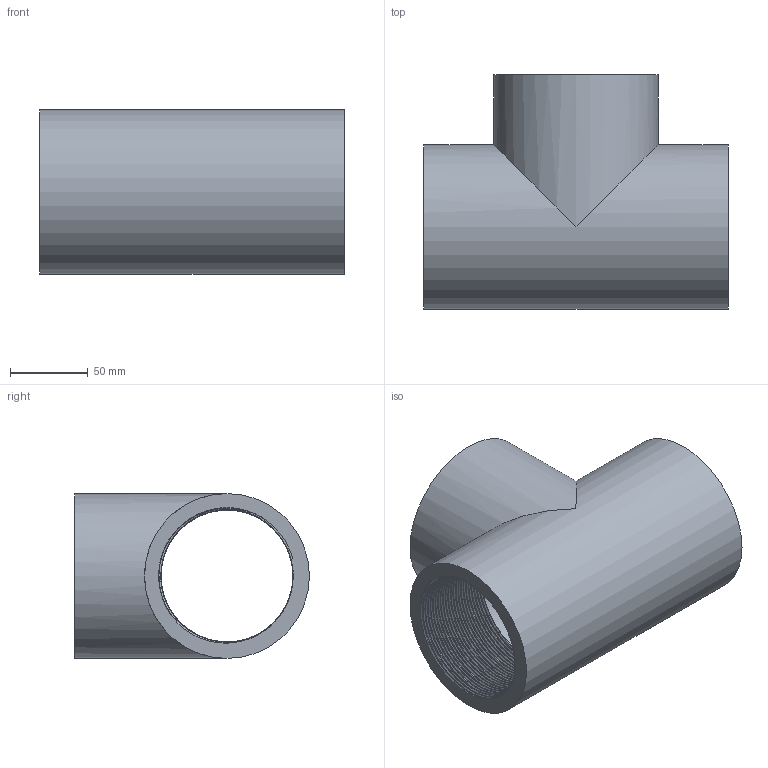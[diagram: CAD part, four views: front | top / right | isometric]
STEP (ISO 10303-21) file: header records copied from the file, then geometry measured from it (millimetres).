
FILE_DESCRIPTION(/* description */ ('(descrizione)'),/* implementation_level */ '2;1');
FILE_NAME(/* name */ 'C:\Users\POLYPIPE\Desktop\DATASET INVENTOR\LIBRERIA EFFAST\RACCORDI 3DxWEB\RER\3D_RERTIE\3D_RERTIE090I.stp',/* time_stamp */ '2018-01-19T17:21:24+01:00',/* author */ ('POLYPIPE'),/* organization */ ('Polypipe Italia s.r.l.'),/* preprocessor_version */ 'ST-DEVELOPER v16.1',/* originating_system */ 'Autodesk Inventor 2016',/* authorisation */ '');
FILE_SCHEMA (('CONFIG_CONTROL_DESIGN'));
Length unit declared in the file: millimetre
Products named in the file (1): 3D_RERTIE
Bounding box: 196 x 151 x 106 mm (x, y, z)
Volume: 703708.1 mm3; surface area: 179860.9 mm2
Topology: 1 solids, 1 shells, 25 faces, 70 edges, 46 vertices
Faces by surface type: bspline 15, plane 6, cylinder 4
Full cylindrical faces by diameter (mm): 84.926 x2, 106 x2
Entity records: 26447 total; most frequent: CARTESIAN_POINT 25930, ORIENTED_EDGE 116, DIRECTION 63, EDGE_CURVE 58, VERTEX_POINT 40, EDGE_LOOP 34, B_SPLINE_CURVE_WITH_KNOTS 33, AXIS2_PLACEMENT_3D 27
